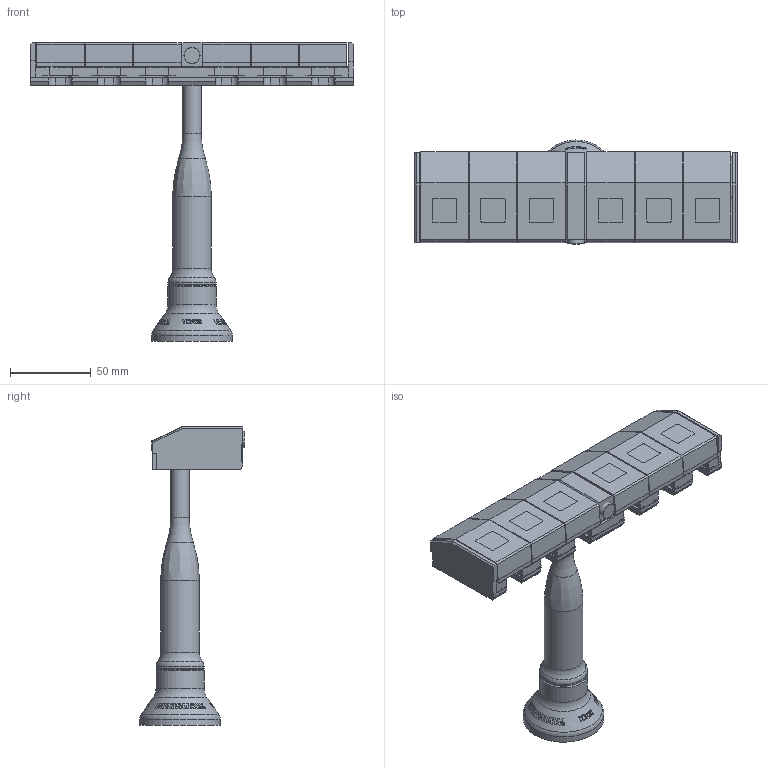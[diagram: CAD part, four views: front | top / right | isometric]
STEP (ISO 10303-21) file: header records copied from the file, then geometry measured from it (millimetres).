
FILE_DESCRIPTION(/* description */ (''),/* implementation_level */ '2;1');
FILE_NAME(/* name */ 'LA-1371-0162-C.stp',/* time_stamp */ '2015-01-30T11:12:11+00:00',/* author */ (''),/* organization */ (''),/* preprocessor_version */ 'ST-DEVELOPER v11',/* originating_system */ 'SIEMENS PLM Software NX 7.5',/* authorisation */ '');
FILE_SCHEMA (('AUTOMOTIVE_DESIGN { 1 0 10303 214 1 1 1 1 }'));
Length unit declared in the file: millimetre
Products named in the file (1): rt139FCFzdb8
Bounding box: 200.25 x 64.85 x 185.58 mm (x, y, z)
Volume: 327476.9 mm3; surface area: 80456.5 mm2
Topology: 8 solids, 8 shells, 359 faces, 1324 edges, 1031 vertices
Faces by surface type: plane 246, cylinder 51, cone 46, bspline 9, torus 7
Full cylindrical faces by diameter (mm): 10 x1, 11.5 x1, 24 x1, 29.8 x2, 50 x1
Entity records: 16686 total; most frequent: CARTESIAN_POINT 4417, ORIENTED_EDGE 2594, DIRECTION 1634, EDGE_CURVE 1297, VERTEX_POINT 1022, LINE 664, VECTOR 664, B_SPLINE_CURVE_WITH_KNOTS 499
